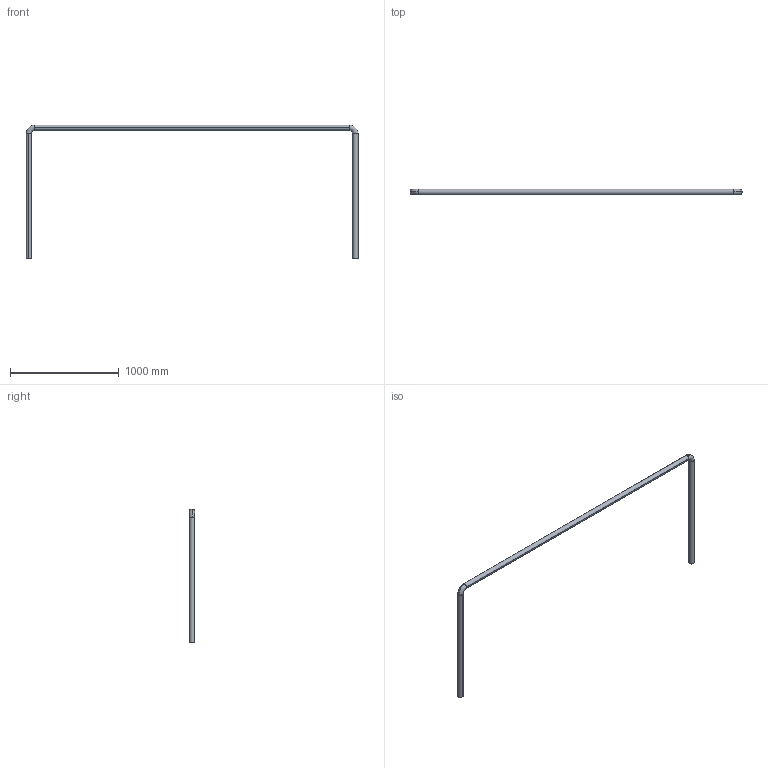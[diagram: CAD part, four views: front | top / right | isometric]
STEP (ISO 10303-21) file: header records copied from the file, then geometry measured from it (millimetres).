
FILE_DESCRIPTION (( 'STEP AP214' ), '1' );
FILE_NAME ('CCJ029-REP.229 - MAIN COURANTE GARDE CORPS AMOVIBLE A2-A3.STEP', '2025-10-30T15:40:02', ( '' ), ( '' ), 'SwSTEP 2.0', 'SolidWorks 2021', '' );
FILE_SCHEMA (( 'AUTOMOTIVE_DESIGN' ));
Length unit declared in the file: millimetre
Products named in the file (1): CCJ029-REP.229 - MAIN COURANTE GARDE CORPS AMOVIBLE A2-A3
Bounding box: 3048.3 x 48.3 x 1230 mm (x, y, z)
Volume: 1929054.9 mm3; surface area: 1543963.4 mm2
Topology: 1 solids, 1 shells, 22 faces, 56 edges, 36 vertices
Faces by surface type: cylinder 12, torus 8, plane 2
Entity records: 730 total; most frequent: DIRECTION 146, CARTESIAN_POINT 115, ORIENTED_EDGE 112, AXIS2_PLACEMENT_3D 67, EDGE_CURVE 56, CIRCLE 44, VERTEX_POINT 36, EDGE_LOOP 24
